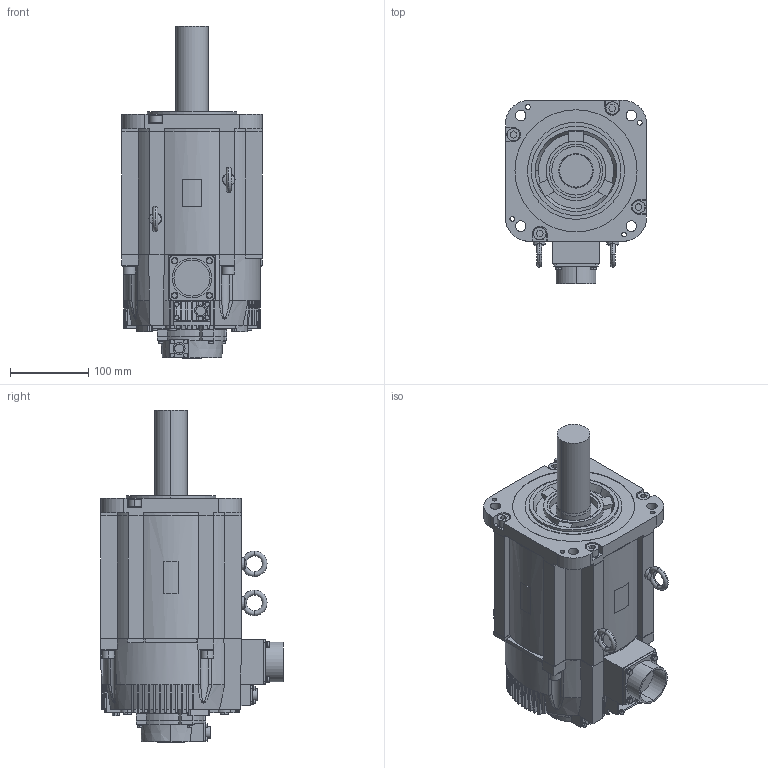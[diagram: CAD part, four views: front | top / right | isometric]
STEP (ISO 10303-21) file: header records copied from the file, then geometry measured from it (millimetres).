
FILE_DESCRIPTION (( 'STEP AP203' ), '1' );
FILE_NAME ('sgm7g_75__a2c.STEP', '2014-05-07T05:10:24', ( '匠エンジニアリング山之内' ), ( 'TAKUMI-Engniaring' ), 'SwSTEP 2.0', 'SolidWorks 2006303', '' );
FILE_SCHEMA (( 'CONFIG_CONTROL_DESIGN' ));
Length unit declared in the file: millimetre
Products named in the file (3): sgm7g_75__a2c_base; sgm7g_75__a2c_eyebolt; sgm7g_75__a2c
Assembly tree (3 placements, depth 2):
  sgm7g_75__a2c
    sgm7g_75__a2c_eyebolt  x2
    sgm7g_75__a2c_base
Bounding box: 180 x 233.75 x 424.1 mm (x, y, z)
Volume: 7530557.2 mm3; surface area: 352193.6 mm2
Topology: 3 solids, 3 shells, 1060 faces, 2739 edges, 1779 vertices
Faces by surface type: plane 643, cylinder 307, cone 98, torus 8, bspline 4
Entity records: 33896 total; most frequent: CARTESIAN_POINT 7460, DIRECTION 5534, ORIENTED_EDGE 5424, EDGE_CURVE 2712, AXIS2_PLACEMENT_3D 1978, VERTEX_POINT 1763, VECTOR 1578, LINE 1578
